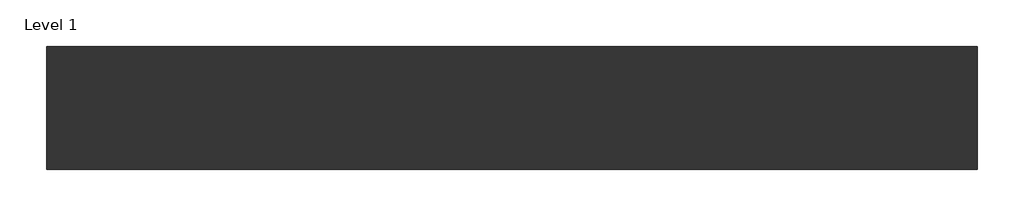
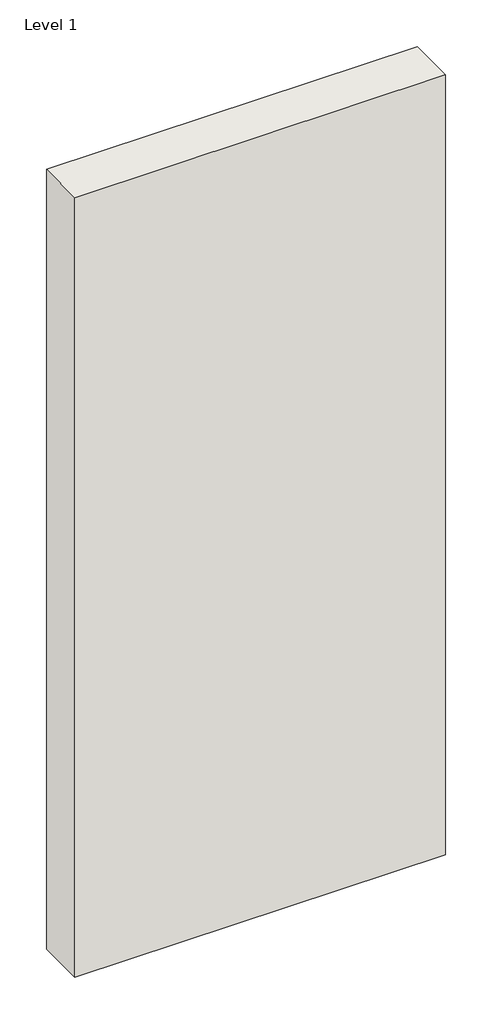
# One storey: 1 wall.
"""IFC4 building model written with IfcOpenShell, lengths in millimetres."""

from ifc_helpers import new_model, si_unit, origin, origin_with_axes, place, context, project, spatial, polyline, outline, extrude, element, save

model = new_model("IFC4")

# Units and contexts
model_context = context("Model", 3, world=origin())
ifc_project = project(units=[si_unit("LENGTHUNIT", "METRE", prefix="MILLI")], contexts=[model_context])

# Site, building, storey
site = spatial("IfcSite", under=ifc_project)
building = spatial("IfcBuilding", under=site)
storey = spatial("IfcBuildingStorey", under=building, Name="Level 1", Elevation=0.0)

# Wall
placement = place(None, origin())
element("IfcWall", 1, ObjectType="Exterior-Steel Frame-Masonry-CSR5410-258mm", at=placement, inside=storey, context=model_context, shape_type="SweptSolid", body=[
    extrude(outline(polyline([(-249.9890541, -1376.5493653), (1550.0109459, -1376.5493653), (1550.0109459, -1614.5493653), (-249.9890541, -1614.5493653), (-249.9890541, -1376.5493653)])), origin_with_axes(), (0.0, 0.0, 1.0), 4000.0),
])

save(model, "model.ifc")
